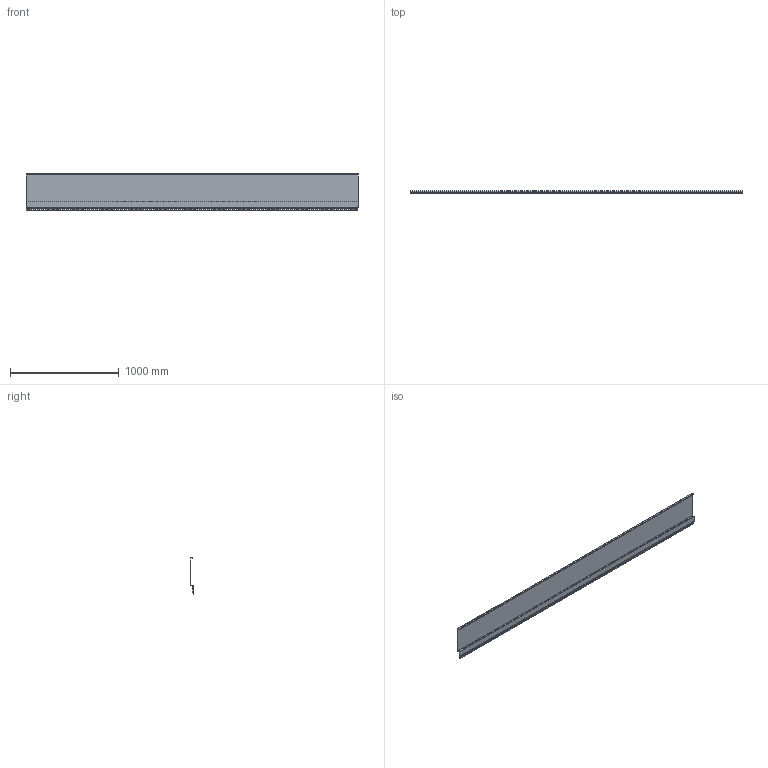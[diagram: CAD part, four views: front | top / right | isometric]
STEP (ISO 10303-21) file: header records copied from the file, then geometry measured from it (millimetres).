
FILE_DESCRIPTION(/* description */ (''),/* implementation_level */ '2;1');
FILE_NAME(/* name */ 'C:\Users\Utilisateur\Mac Metal\Site de communication - Documents\Ingénierie\Développement de produits\Board and Batten\Dessins\Profilés\Fichiers 3D\STEP\Reverse Board & Batten.stp',/* time_stamp */ '2022-06-14T21:23:10-04:00',/* author */ ('Utilisateur'),/* organization */ (''),/* preprocessor_version */ 'ST-DEVELOPER v18.1',/* originating_system */ 'Autodesk Inventor 2021',/* authorisation */ '');
FILE_SCHEMA (('AUTOMOTIVE_DESIGN { 1 0 10303 214 3 1 1 }'));
Length unit declared in the file: inch
Products named in the file (1): Reverse Board & Batten
Bounding box: 3048 x 20.46 x 333.95 mm (x, y, z)
Volume: 622947.8 mm3; surface area: 2458458.9 mm2
Topology: 1 solids, 1 shells, 378 faces, 1124 edges, 748 vertices
Faces by surface type: plane 195, cylinder 183
Entity records: 13125 total; most frequent: CARTESIAN_POINT 2251, ORIENTED_EDGE 2248, DIRECTION 2248, EDGE_CURVE 1124, LINE 758, VECTOR 758, VERTEX_POINT 748, AXIS2_PLACEMENT_3D 745
